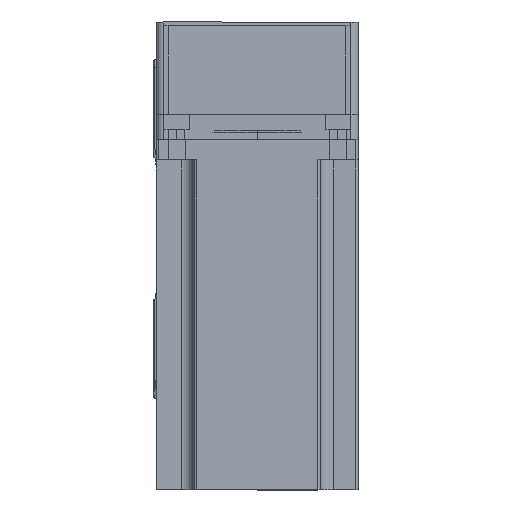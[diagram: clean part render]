
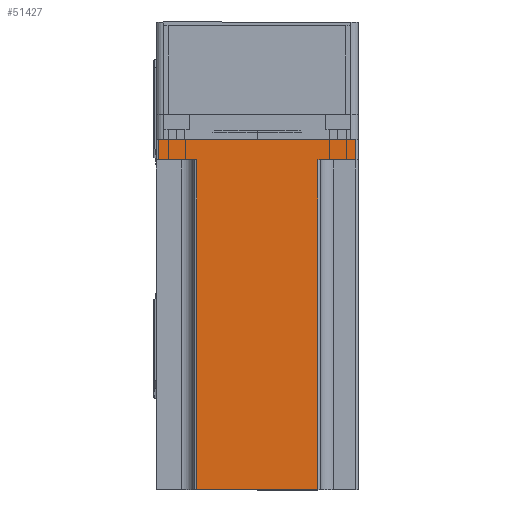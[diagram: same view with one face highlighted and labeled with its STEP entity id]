
A CAD part, top view. The second image highlights one B-rep face of the part: STEP entity #51427.
In plain terms, the highlighted planar face has unit normal (0, 0, 1) as drawn and (0, 1, 0) by its records, which use the part's own axes.
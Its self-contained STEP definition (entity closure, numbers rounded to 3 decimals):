
#43 = ORIENTED_EDGE ( 'NONE', *, *, #53358, .T. ) ;
#68 = VECTOR ( 'NONE', #14374, 1000. ) ;
#356 = PLANE ( 'NONE',  #4253 ) ;
#960 = DIRECTION ( 'NONE',  ( -1., 0., 0. ) ) ;
#1965 = CARTESIAN_POINT ( 'NONE',  ( -39., 40., 138.3 ) ) ;
#3166 = LINE ( 'NONE', #24015, #26230 ) ;
#4159 = EDGE_LOOP ( 'NONE', ( #56103, #30931, #43260, #43, #35064, #24553, #4554, #24677 ) ) ;
#4253 = AXIS2_PLACEMENT_3D ( 'NONE', #30652, #17786, #48146 ) ;
#4554 = ORIENTED_EDGE ( 'NONE', *, *, #8274, .T. ) ;
#4843 = FACE_OUTER_BOUND ( 'NONE', #4159, .T. ) ;
#5872 = VECTOR ( 'NONE', #27915, 1000. ) ;
#8017 = CARTESIAN_POINT ( 'NONE',  ( 24., 40., 8. ) ) ;
#8274 = EDGE_CURVE ( 'NONE', #45496, #56033, #21730, .T. ) ;
#8693 = CARTESIAN_POINT ( 'NONE',  ( 40., 40., 138.3 ) ) ;
#12708 = VECTOR ( 'NONE', #17300, 1000. ) ;
#12855 = CARTESIAN_POINT ( 'NONE',  ( -24., 40., 138.3 ) ) ;
#14374 = DIRECTION ( 'NONE',  ( -1., 0., 0. ) ) ;
#14428 = VERTEX_POINT ( 'NONE', #16656 ) ;
#15551 = VECTOR ( 'NONE', #22206, 1000. ) ;
#16656 = CARTESIAN_POINT ( 'NONE',  ( 24., 40., 138.3 ) ) ;
#17300 = DIRECTION ( 'NONE',  ( 1., 0., 0. ) ) ;
#17786 = DIRECTION ( 'NONE',  ( 0., -1., 0. ) ) ;
#17856 = CARTESIAN_POINT ( 'NONE',  ( 24., 40., 138.3 ) ) ;
#17910 = VERTEX_POINT ( 'NONE', #12855 ) ;
#19094 = LINE ( 'NONE', #8693, #29235 ) ;
#19310 = VECTOR ( 'NONE', #960, 1000. ) ;
#21730 = LINE ( 'NONE', #31610, #68 ) ;
#22206 = DIRECTION ( 'NONE',  ( 0., 0., -1. ) ) ;
#24015 = CARTESIAN_POINT ( 'NONE',  ( -24., 40., 138.3 ) ) ;
#24553 = ORIENTED_EDGE ( 'NONE', *, *, #36131, .T. ) ;
#24677 = ORIENTED_EDGE ( 'NONE', *, *, #29745, .T. ) ;
#26230 = VECTOR ( 'NONE', #54348, 1000. ) ;
#26639 = VERTEX_POINT ( 'NONE', #8017 ) ;
#27690 = CARTESIAN_POINT ( 'NONE',  ( -39., 40., 8. ) ) ;
#27915 = DIRECTION ( 'NONE',  ( 0., 0., 1. ) ) ;
#28446 = EDGE_CURVE ( 'NONE', #39371, #37088, #35782, .T. ) ;
#29235 = VECTOR ( 'NONE', #34640, 1000. ) ;
#29745 = EDGE_CURVE ( 'NONE', #56033, #39371, #40480, .T. ) ;
#30358 = CARTESIAN_POINT ( 'NONE',  ( -25., 40., 8. ) ) ;
#30652 = CARTESIAN_POINT ( 'NONE',  ( 40., 40., 138.3 ) ) ;
#30832 = LINE ( 'NONE', #39994, #19310 ) ;
#30931 = ORIENTED_EDGE ( 'NONE', *, *, #32930, .T. ) ;
#31610 = CARTESIAN_POINT ( 'NONE',  ( 40., 40., 0. ) ) ;
#32930 = EDGE_CURVE ( 'NONE', #37088, #17910, #3166, .T. ) ;
#33130 = CARTESIAN_POINT ( 'NONE',  ( 39., 40., 0. ) ) ;
#34640 = DIRECTION ( 'NONE',  ( -1., 0., 0. ) ) ;
#35064 = ORIENTED_EDGE ( 'NONE', *, *, #43318, .F. ) ;
#35782 = LINE ( 'NONE', #30358, #12708 ) ;
#36131 = EDGE_CURVE ( 'NONE', #54530, #45496, #51791, .T. ) ;
#37088 = VERTEX_POINT ( 'NONE', #37431 ) ;
#37431 = CARTESIAN_POINT ( 'NONE',  ( -24., 40., 8. ) ) ;
#38691 = DIRECTION ( 'NONE',  ( 0., 0., -1. ) ) ;
#39371 = VERTEX_POINT ( 'NONE', #27690 ) ;
#39994 = CARTESIAN_POINT ( 'NONE',  ( 25., 40., 8. ) ) ;
#40480 = LINE ( 'NONE', #1965, #5872 ) ;
#43260 = ORIENTED_EDGE ( 'NONE', *, *, #51373, .F. ) ;
#43318 = EDGE_CURVE ( 'NONE', #54530, #26639, #30832, .T. ) ;
#43473 = CARTESIAN_POINT ( 'NONE',  ( -39., 40., 0. ) ) ;
#45496 = VERTEX_POINT ( 'NONE', #33130 ) ;
#46684 = CARTESIAN_POINT ( 'NONE',  ( 39., 40., 138.3 ) ) ;
#47707 = VECTOR ( 'NONE', #38691, 1000. ) ;
#48146 = DIRECTION ( 'NONE',  ( 1., 0., 0. ) ) ;
#50216 = LINE ( 'NONE', #17856, #15551 ) ;
#51373 = EDGE_CURVE ( 'NONE', #14428, #17910, #19094, .T. ) ;
#51427 = ADVANCED_FACE ( 'NONE', ( #4843 ), #356, .F. ) ;
#51791 = LINE ( 'NONE', #46684, #47707 ) ;
#52752 = CARTESIAN_POINT ( 'NONE',  ( 39., 40., 8. ) ) ;
#53358 = EDGE_CURVE ( 'NONE', #14428, #26639, #50216, .T. ) ;
#54348 = DIRECTION ( 'NONE',  ( 0., 0., 1. ) ) ;
#54530 = VERTEX_POINT ( 'NONE', #52752 ) ;
#56033 = VERTEX_POINT ( 'NONE', #43473 ) ;
#56103 = ORIENTED_EDGE ( 'NONE', *, *, #28446, .T. ) ;
